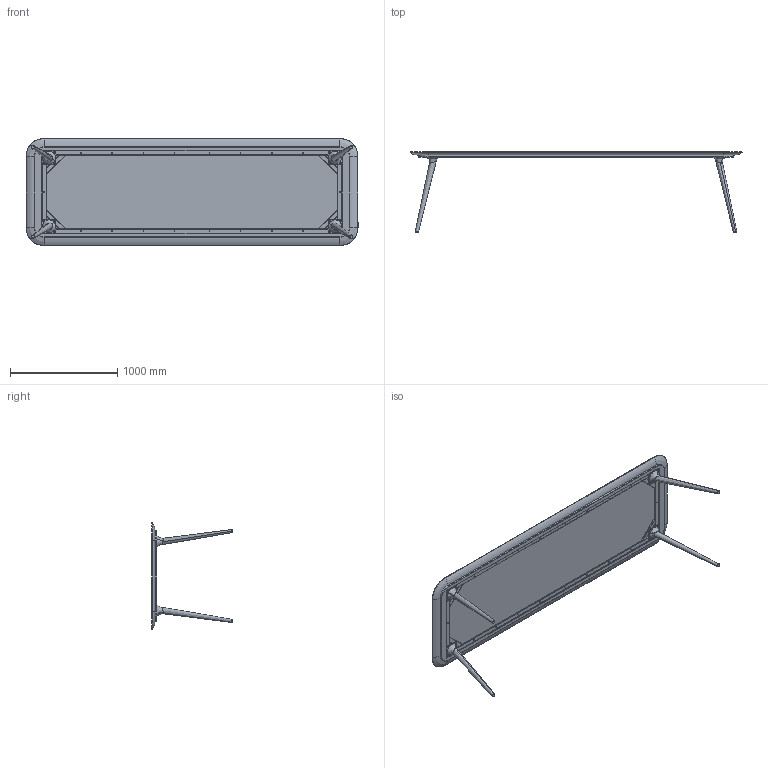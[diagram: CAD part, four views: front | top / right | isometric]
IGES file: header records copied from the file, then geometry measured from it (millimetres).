
Start section: SolidWorks IGES file using analytic representation for surfaces
Global section: file name: P:\Corporate Identity\4_Product_Content\2d3ddag_2014\Zio Dining Table\3D\Zio_Dining_Table_310x100.IGS; native system: SolidWorks 2014; preprocessor: SolidWorks 2014; author: iris; date: 140902.134207; units: millimetre
Bounding box: 3100.46 x 749.96 x 1000.44 mm (x, y, z)
Volume: 96337699.5 mm3; surface area: 9867644.6 mm2
Topology: 15 solids, 15 shells, 635 faces, 1623 edges, 992 vertices
Faces by surface type: revolution 481, plane 138, bspline 16
